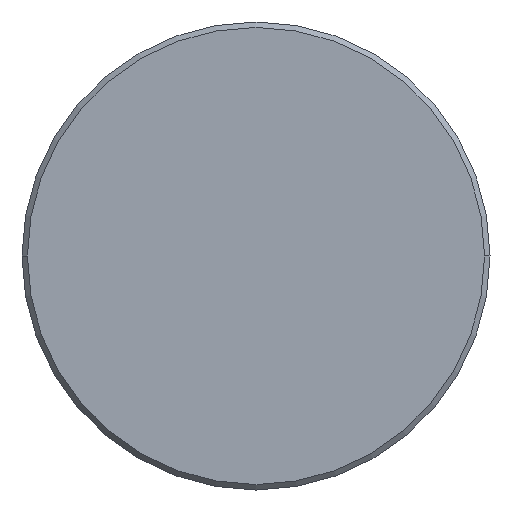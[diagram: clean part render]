
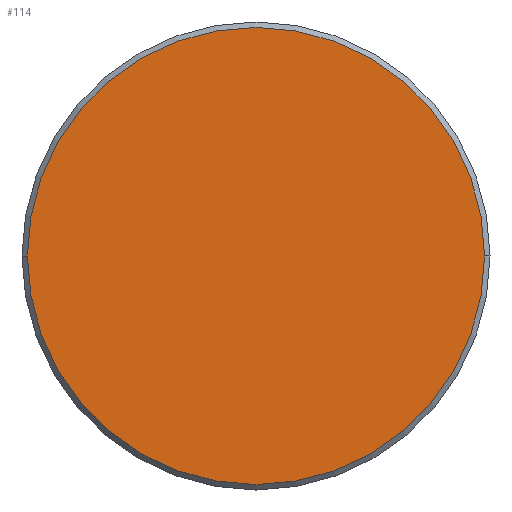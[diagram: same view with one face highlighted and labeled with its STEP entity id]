
A CAD part, left-side view. The second image highlights one B-rep face of the part: STEP entity #114.
In plain terms, the highlighted planar face has unit normal (-1, 0, 0).
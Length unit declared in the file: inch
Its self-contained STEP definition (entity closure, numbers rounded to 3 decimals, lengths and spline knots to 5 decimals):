
#17 = VERTEX_POINT ( 'NONE', #53 ) ;
#30 = CARTESIAN_POINT ( 'NONE',  ( 0., 0., 0. ) ) ;
#42 = CIRCLE ( 'NONE', #375, 0.16788 ) ;
#44 = DIRECTION ( 'NONE',  ( 0., -1., 0. ) ) ;
#53 = CARTESIAN_POINT ( 'NONE',  ( 0., -0.16788, 0. ) ) ;
#61 = DIRECTION ( 'NONE',  ( 0., -1., 0. ) ) ;
#82 = AXIS2_PLACEMENT_3D ( 'NONE', #139, #105, #44 ) ;
#96 = PLANE ( 'NONE',  #82 ) ;
#101 = FACE_OUTER_BOUND ( 'NONE', #358, .T. ) ;
#103 = CARTESIAN_POINT ( 'NONE',  ( 0., 0., 0. ) ) ;
#105 = DIRECTION ( 'NONE',  ( -1., 0., 0. ) ) ;
#111 = EDGE_CURVE ( 'NONE', #263, #17, #153, .T. ) ;
#114 = ADVANCED_FACE ( 'NONE', ( #101 ), #96, .T. ) ;
#139 = CARTESIAN_POINT ( 'NONE',  ( 0., 0., 0. ) ) ;
#150 = CARTESIAN_POINT ( 'NONE',  ( 0., 0.16788, 0. ) ) ;
#153 = CIRCLE ( 'NONE', #193, 0.16788 ) ;
#189 = ORIENTED_EDGE ( 'NONE', *, *, #349, .T. ) ;
#193 = AXIS2_PLACEMENT_3D ( 'NONE', #103, #327, #216 ) ;
#206 = ORIENTED_EDGE ( 'NONE', *, *, #111, .T. ) ;
#216 = DIRECTION ( 'NONE',  ( 0., -1., 0. ) ) ;
#238 = DIRECTION ( 'NONE',  ( -1., 0., 0. ) ) ;
#263 = VERTEX_POINT ( 'NONE', #150 ) ;
#327 = DIRECTION ( 'NONE',  ( -1., 0., 0. ) ) ;
#349 = EDGE_CURVE ( 'NONE', #17, #263, #42, .T. ) ;
#358 = EDGE_LOOP ( 'NONE', ( #206, #189 ) ) ;
#375 = AXIS2_PLACEMENT_3D ( 'NONE', #30, #238, #61 ) ;
